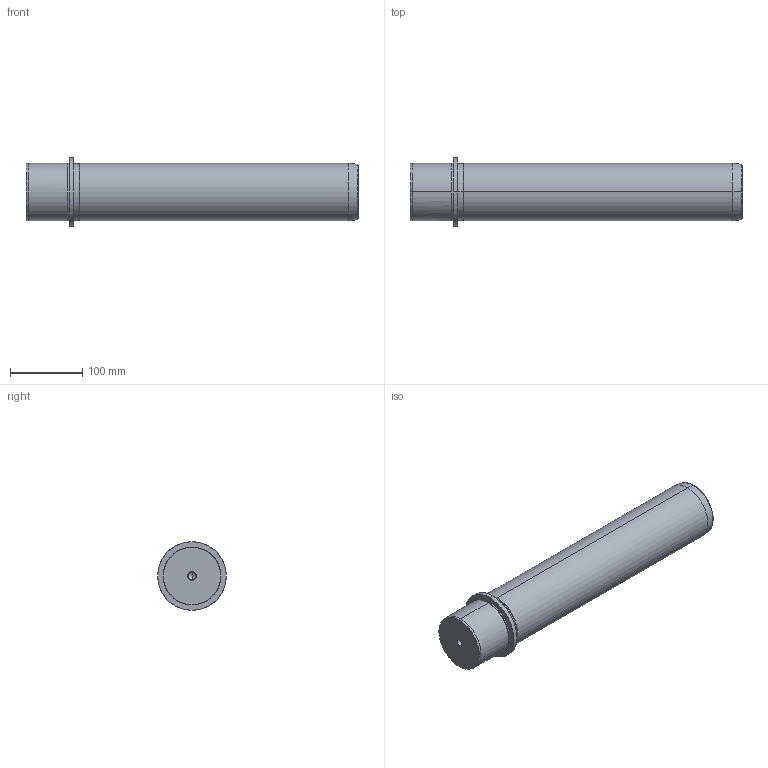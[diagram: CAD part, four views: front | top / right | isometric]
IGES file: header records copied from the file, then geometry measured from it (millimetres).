
Start section: START RECORD GO HERE.
Global section: file name: 719-80x400.igs; native system: DASSAULT SYSTEMES CATIA V5 R20 - www.3ds.com; preprocessor: CATIA Version 5 Release 20 ; author: Utente; organization: NB04-ASUS; date: 20210103.153557; units: millimetre
Bounding box: 460 x 95 x 95 mm (x, y, z)
Surface area: 131240.2 mm2 (no closed solid volume)
Topology: 0 solids, 0 shells, 36 faces, 220 edges, 216 vertices
Faces by surface type: revolution 32, plane 4
